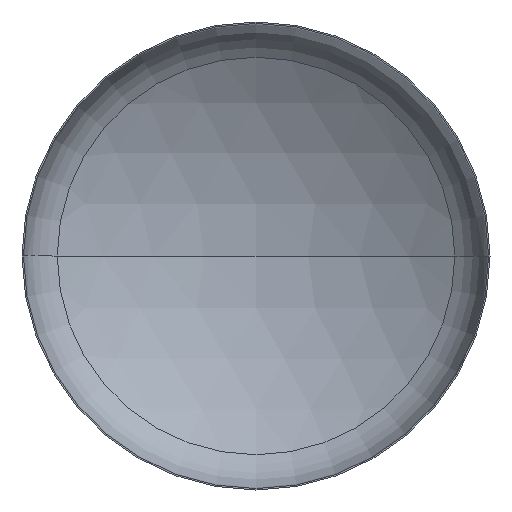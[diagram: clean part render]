
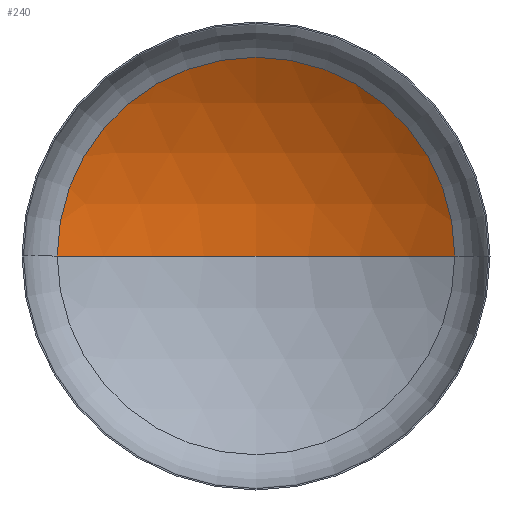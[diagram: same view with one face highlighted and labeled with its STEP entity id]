
A CAD part, front view. The second image highlights one B-rep face of the part: STEP entity #240.
In plain terms, the highlighted spherical face has radius 2880 mm.
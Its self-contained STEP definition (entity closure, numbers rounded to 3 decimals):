
#2 = DIRECTION ( 'NONE',  ( -1., 0., 0. ) ) ;
#6 = AXIS2_PLACEMENT_3D ( 'NONE', #228, #24, #69 ) ;
#11 = CARTESIAN_POINT ( 'NONE',  ( 0., -1930.5, 0. ) ) ;
#20 = AXIS2_PLACEMENT_3D ( 'NONE', #188, #393, #398 ) ;
#22 = AXIS2_PLACEMENT_3D ( 'NONE', #108, #100, #105 ) ;
#23 = VERTEX_POINT ( 'NONE', #259 ) ;
#24 = DIRECTION ( 'NONE',  ( 0., 0., 1. ) ) ;
#45 = AXIS2_PLACEMENT_3D ( 'NONE', #11, #303, #2 ) ;
#64 = ORIENTED_EDGE ( 'NONE', *, *, #330, .T. ) ;
#69 = DIRECTION ( 'NONE',  ( 1., 0., 0. ) ) ;
#100 = DIRECTION ( 'NONE',  ( 0., -1., 0. ) ) ;
#105 = DIRECTION ( 'NONE',  ( 1., 0., 0. ) ) ;
#108 = CARTESIAN_POINT ( 'NONE',  ( 0., 510.377, 0. ) ) ;
#137 = CIRCLE ( 'NONE', #6, 2880. ) ;
#164 = CARTESIAN_POINT ( 'NONE',  ( 1528.568, 510.377, 0. ) ) ;
#166 = CIRCLE ( 'NONE', #22, 1528.568 ) ;
#188 = CARTESIAN_POINT ( 'NONE',  ( 0., -1930.5, 0. ) ) ;
#200 = ORIENTED_EDGE ( 'NONE', *, *, #387, .F. ) ;
#228 = CARTESIAN_POINT ( 'NONE',  ( 0., -1930.5, 0. ) ) ;
#240 = ADVANCED_FACE ( 'NONE', ( #409 ), #340, .F. ) ;
#252 = EDGE_LOOP ( 'NONE', ( #200, #314, #64 ) ) ;
#259 = CARTESIAN_POINT ( 'NONE',  ( 0., 949.5, 0. ) ) ;
#303 = DIRECTION ( 'NONE',  ( 0., 0., -1. ) ) ;
#313 = CIRCLE ( 'NONE', #20, 2880. ) ;
#314 = ORIENTED_EDGE ( 'NONE', *, *, #339, .T. ) ;
#330 = EDGE_CURVE ( 'NONE', #358, #401, #166, .T. ) ;
#339 = EDGE_CURVE ( 'NONE', #23, #358, #313, .T. ) ;
#340 = SPHERICAL_SURFACE ( 'NONE', #45, 2880. ) ;
#358 = VERTEX_POINT ( 'NONE', #164 ) ;
#387 = EDGE_CURVE ( 'NONE', #23, #401, #137, .T. ) ;
#393 = DIRECTION ( 'NONE',  ( 0., 0., -1. ) ) ;
#398 = DIRECTION ( 'NONE',  ( -1., 0., 0. ) ) ;
#399 = CARTESIAN_POINT ( 'NONE',  ( -1528.568, 510.377, 0. ) ) ;
#401 = VERTEX_POINT ( 'NONE', #399 ) ;
#409 = FACE_OUTER_BOUND ( 'NONE', #252, .T. ) ;
